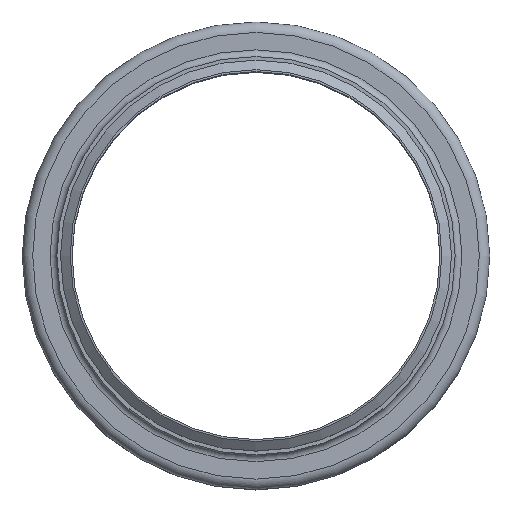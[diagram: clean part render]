
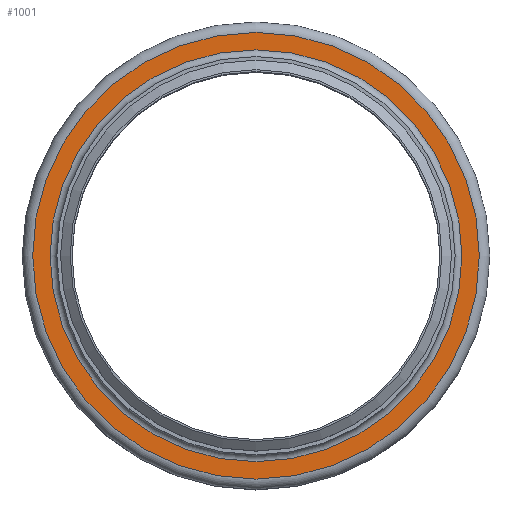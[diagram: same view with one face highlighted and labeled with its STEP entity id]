
A CAD part, top view. The second image highlights one B-rep face of the part: STEP entity #1001.
In plain terms, the highlighted planar face has unit normal (0, 0, 1).
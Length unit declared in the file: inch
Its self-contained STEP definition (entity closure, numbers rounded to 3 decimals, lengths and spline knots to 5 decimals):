
#123=FACE_BOUND('',#304,.T.);
#192=FACE_OUTER_BOUND('',#303,.T.);
#303=EDGE_LOOP('',(#832));
#304=EDGE_LOOP('',(#833));
#424=CIRCLE('',#1220,6.71625);
#425=CIRCLE('',#1222,7.28375);
#511=VERTEX_POINT('',#1895);
#512=VERTEX_POINT('',#1899);
#622=EDGE_CURVE('',#511,#511,#424,.T.);
#623=EDGE_CURVE('',#512,#512,#425,.T.);
#832=ORIENTED_EDGE('',*,*,#623,.F.);
#833=ORIENTED_EDGE('',*,*,#622,.T.);
#932=PLANE('',#1221);
#1001=ADVANCED_FACE('',(#192,#123),#932,.T.);
#1220=AXIS2_PLACEMENT_3D('',#1897,#1573,#1574);
#1221=AXIS2_PLACEMENT_3D('',#1898,#1575,#1576);
#1222=AXIS2_PLACEMENT_3D('',#1900,#1577,#1578);
#1573=DIRECTION('center_axis',(0.,0.,-1.));
#1574=DIRECTION('ref_axis',(1.,0.,0.));
#1575=DIRECTION('center_axis',(0.,0.,1.));
#1576=DIRECTION('ref_axis',(1.,0.,0.));
#1577=DIRECTION('center_axis',(0.,0.,-1.));
#1578=DIRECTION('ref_axis',(1.,0.,0.));
#1895=CARTESIAN_POINT('',(6.71625,0.,-0.22125));
#1897=CARTESIAN_POINT('Origin',(0.,0.,-0.22125));
#1898=CARTESIAN_POINT('Origin',(0.,7.28375,-0.22125));
#1899=CARTESIAN_POINT('',(7.28375,0.,-0.22125));
#1900=CARTESIAN_POINT('Origin',(0.,0.,-0.22125));
